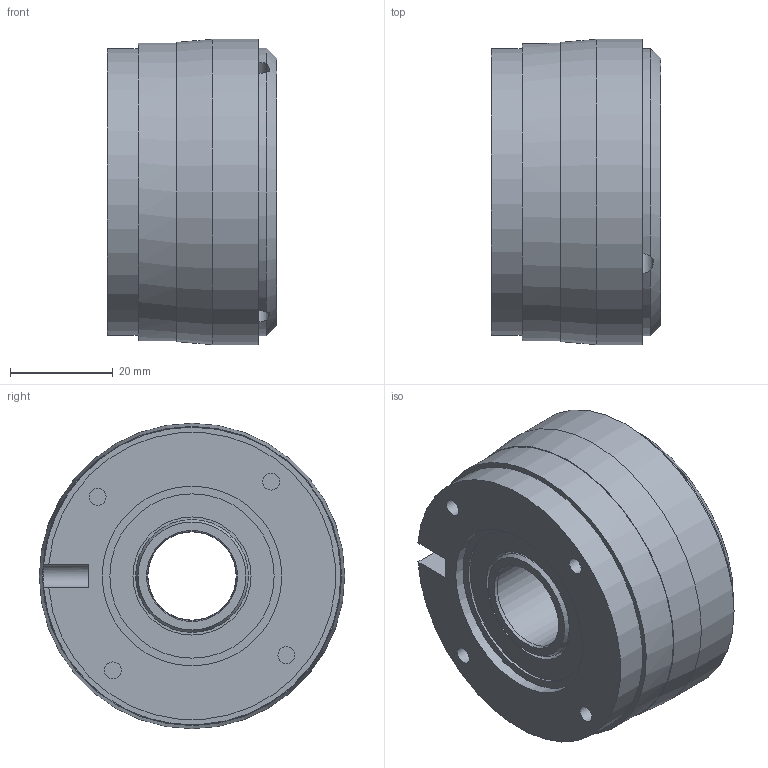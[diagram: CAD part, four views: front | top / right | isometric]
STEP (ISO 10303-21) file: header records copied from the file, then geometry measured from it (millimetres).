
FILE_DESCRIPTION (( 'STEP AP214' ), '1' );
FILE_NAME ('86_61105Pxx_PF-ID 00511115_Index g.STEP', '2020-02-03T13:37:06', ( '' ), ( '' ), 'SwSTEP 2.0', 'SolidWorks 2018', '' );
FILE_SCHEMA (( 'AUTOMOTIVE_DESIGN' ));
Length unit declared in the file: millimetre
Products named in the file (1): 86_61105Pxx_PF-ID 00511115_Index g
Bounding box: 33 x 59.5 x 59.5 mm (x, y, z)
Volume: 72579 mm3; surface area: 24090.6 mm2
Topology: 2 solids, 2 shells, 56 faces, 111 edges, 71 vertices
Faces by surface type: cylinder 25, plane 23, cone 6, torus 2
Full cylindrical faces by diameter (mm): 3.3 x7, 4.4 x3, 17.2 x1, 17.4 x1, 22 x1, 23 x1, 25 x1, 32 x1, 35 x1, 40.2 x1, 54 x1, 56 x1, 57.5 x1, 58 x1, 59.5 x1
Entity records: 1715 total; most frequent: CARTESIAN_POINT 538, DIRECTION 231, ORIENTED_EDGE 150, AXIS2_PLACEMENT_3D 109, EDGE_LOOP 109, FACE_OUTER_BOUND 81, EDGE_CURVE 75, VERTEX_POINT 66
